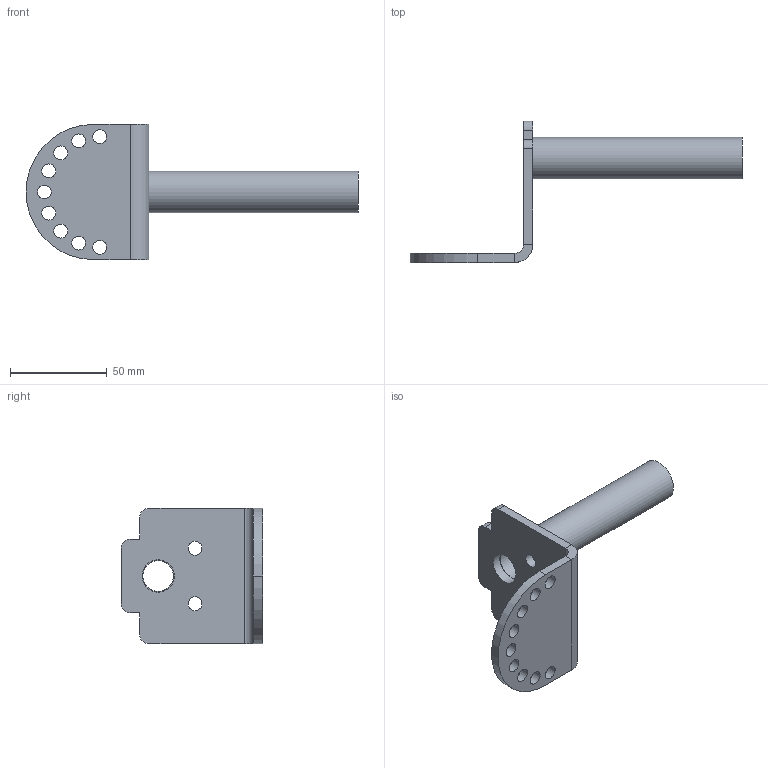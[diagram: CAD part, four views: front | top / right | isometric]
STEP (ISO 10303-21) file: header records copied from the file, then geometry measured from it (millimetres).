
FILE_DESCRIPTION (( 'STEP AP214' ), '1' );
FILE_NAME ('BPD1100.001.STEP', '2025-04-04T14:26:46', ( '' ), ( '' ), 'SwSTEP 2.0', 'SolidWorks 2023', '' );
FILE_SCHEMA (( 'AUTOMOTIVE_DESIGN' ));
Length unit declared in the file: inch
Products named in the file (1): BPD1100.001
Bounding box: 171.45 x 73.03 x 69.85 mm (x, y, z)
Surface area: 31089.6 mm2 (no closed solid volume)
Topology: 0 solids, 2 shells, 39 faces, 109 edges, 74 vertices
Faces by surface type: cylinder 22, plane 17
Full cylindrical faces by diameter (mm): 7.144 x11, 15.893 x1, 16.669 x1, 21.438 x1
Entity records: 1671 total; most frequent: DIRECTION 207, CARTESIAN_POINT 185, ORIENTED_EDGE 166, AXIS2_PLACEMENT_3D 84, EDGE_CURVE 83, EDGE_LOOP 79, VERTEX_POINT 62, FACE_OUTER_BOUND 53
